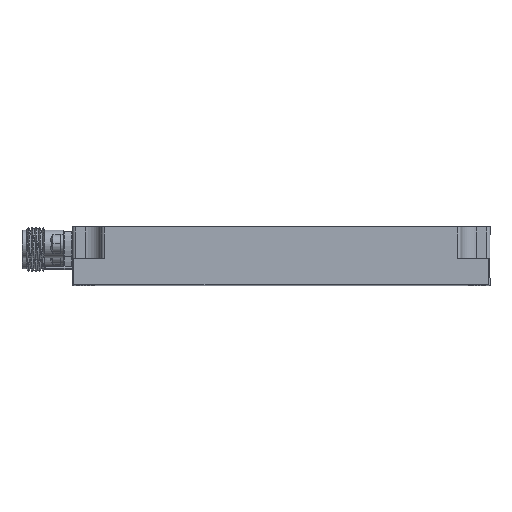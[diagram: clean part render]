
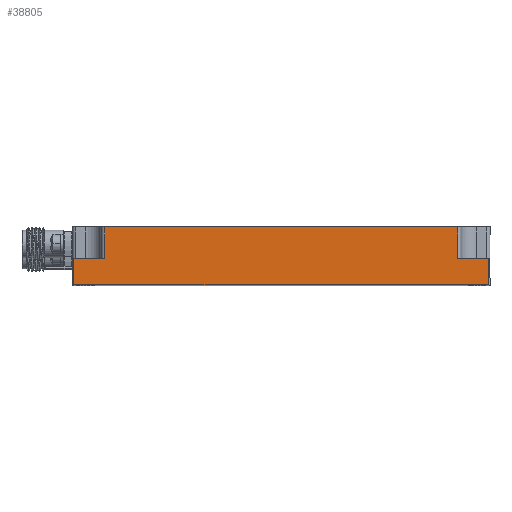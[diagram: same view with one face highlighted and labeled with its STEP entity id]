
A CAD part, top view. The second image highlights one B-rep face of the part: STEP entity #38805.
In plain terms, the highlighted planar face has unit normal (0, 0, 1).
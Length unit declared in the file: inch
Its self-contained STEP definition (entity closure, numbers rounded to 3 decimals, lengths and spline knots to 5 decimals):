
#3494 = VECTOR ( 'NONE', #135456, 39.37008 ) ;
#4113 = VERTEX_POINT ( 'NONE', #4862 ) ;
#4862 = CARTESIAN_POINT ( 'NONE',  ( 1.31358, 0.43307, 1.47638 ) ) ;
#7801 = DIRECTION ( 'NONE',  ( 1., 0., 0. ) ) ;
#9511 = CARTESIAN_POINT ( 'NONE',  ( -1.55512, 0.43307, 1.47638 ) ) ;
#9783 = EDGE_CURVE ( 'NONE', #59113, #4113, #95503, .T. ) ;
#15350 = LINE ( 'NONE', #29099, #67396 ) ;
#15458 = VERTEX_POINT ( 'NONE', #109486 ) ;
#17727 = CARTESIAN_POINT ( 'NONE',  ( -1.31358, 0.19685, 1.47638 ) ) ;
#21176 = VERTEX_POINT ( 'NONE', #104121 ) ;
#21913 = VECTOR ( 'NONE', #82249, 39.37008 ) ;
#26569 = VECTOR ( 'NONE', #55156, 39.37008 ) ;
#29099 = CARTESIAN_POINT ( 'NONE',  ( -1.55512, 0.43307, 1.47638 ) ) ;
#29797 = VECTOR ( 'NONE', #71272, 39.37008 ) ;
#30567 = VERTEX_POINT ( 'NONE', #17727 ) ;
#34235 = CARTESIAN_POINT ( 'NONE',  ( 1.55512, 0.19685, 1.47638 ) ) ;
#34534 = EDGE_CURVE ( 'NONE', #59113, #21176, #72346, .T. ) ;
#36448 = CARTESIAN_POINT ( 'NONE',  ( -1.31358, 0.19685, 1.47638 ) ) ;
#38503 = ORIENTED_EDGE ( 'NONE', *, *, #81499, .T. ) ;
#38805 = ADVANCED_FACE ( 'NONE', ( #67015 ), #55714, .F. ) ;
#39416 = CARTESIAN_POINT ( 'NONE',  ( 1.54512, 0., 1.47638 ) ) ;
#41403 = LINE ( 'NONE', #138558, #26569 ) ;
#41623 = LINE ( 'NONE', #91032, #43635 ) ;
#42219 = EDGE_CURVE ( 'NONE', #89546, #30567, #41403, .T. ) ;
#42936 = EDGE_CURVE ( 'NONE', #15458, #76474, #85257, .T. ) ;
#43635 = VECTOR ( 'NONE', #139585, 39.37008 ) ;
#46532 = LINE ( 'NONE', #58737, #21913 ) ;
#47217 = ORIENTED_EDGE ( 'NONE', *, *, #42936, .T. ) ;
#48438 = AXIS2_PLACEMENT_3D ( 'NONE', #9511, #111375, #72623 ) ;
#54920 = ORIENTED_EDGE ( 'NONE', *, *, #77827, .F. ) ;
#55156 = DIRECTION ( 'NONE',  ( 1., 0., 0. ) ) ;
#55714 = PLANE ( 'NONE',  #48438 ) ;
#58737 = CARTESIAN_POINT ( 'NONE',  ( -1.54512, 0.43307, 1.47638 ) ) ;
#59113 = VERTEX_POINT ( 'NONE', #105230 ) ;
#67015 = FACE_OUTER_BOUND ( 'NONE', #99800, .T. ) ;
#67396 = VECTOR ( 'NONE', #111073, 39.37008 ) ;
#71272 = DIRECTION ( 'NONE',  ( 0., 1., 0. ) ) ;
#72286 = CARTESIAN_POINT ( 'NONE',  ( -1.55512, 0., 1.47638 ) ) ;
#72346 = LINE ( 'NONE', #34235, #3494 ) ;
#72623 = DIRECTION ( 'NONE',  ( -1., 0., 0. ) ) ;
#76474 = VERTEX_POINT ( 'NONE', #39416 ) ;
#77827 = EDGE_CURVE ( 'NONE', #109905, #4113, #15350, .T. ) ;
#81043 = CARTESIAN_POINT ( 'NONE',  ( 1.31358, 0.19685, 1.47638 ) ) ;
#81499 = EDGE_CURVE ( 'NONE', #89546, #15458, #46532, .T. ) ;
#82249 = DIRECTION ( 'NONE',  ( 0., -1., 0. ) ) ;
#85257 = LINE ( 'NONE', #72286, #101348 ) ;
#88290 = EDGE_CURVE ( 'NONE', #30567, #109905, #158730, .T. ) ;
#89546 = VERTEX_POINT ( 'NONE', #130739 ) ;
#91032 = CARTESIAN_POINT ( 'NONE',  ( 1.54512, 0.43307, 1.47638 ) ) ;
#92243 = ORIENTED_EDGE ( 'NONE', *, *, #88290, .F. ) ;
#95503 = LINE ( 'NONE', #81043, #131510 ) ;
#96840 = ORIENTED_EDGE ( 'NONE', *, *, #9783, .T. ) ;
#99800 = EDGE_LOOP ( 'NONE', ( #102006, #38503, #47217, #151584, #139211, #96840, #54920, #92243 ) ) ;
#101348 = VECTOR ( 'NONE', #7801, 39.37008 ) ;
#102006 = ORIENTED_EDGE ( 'NONE', *, *, #42219, .F. ) ;
#104121 = CARTESIAN_POINT ( 'NONE',  ( 1.54512, 0.19685, 1.47638 ) ) ;
#105230 = CARTESIAN_POINT ( 'NONE',  ( 1.31358, 0.19685, 1.47638 ) ) ;
#109486 = CARTESIAN_POINT ( 'NONE',  ( -1.54512, 0., 1.47638 ) ) ;
#109905 = VERTEX_POINT ( 'NONE', #121459 ) ;
#111073 = DIRECTION ( 'NONE',  ( 1., 0., 0. ) ) ;
#111375 = DIRECTION ( 'NONE',  ( 0., 0., -1. ) ) ;
#121459 = CARTESIAN_POINT ( 'NONE',  ( -1.31358, 0.43307, 1.47638 ) ) ;
#130739 = CARTESIAN_POINT ( 'NONE',  ( -1.54512, 0.19685, 1.47638 ) ) ;
#131510 = VECTOR ( 'NONE', #132720, 39.37008 ) ;
#132720 = DIRECTION ( 'NONE',  ( 0., 1., 0. ) ) ;
#135456 = DIRECTION ( 'NONE',  ( 1., 0., 0. ) ) ;
#138558 = CARTESIAN_POINT ( 'NONE',  ( -1.55512, 0.19685, 1.47638 ) ) ;
#139211 = ORIENTED_EDGE ( 'NONE', *, *, #34534, .F. ) ;
#139585 = DIRECTION ( 'NONE',  ( 0., 1., 0. ) ) ;
#151584 = ORIENTED_EDGE ( 'NONE', *, *, #160050, .T. ) ;
#158730 = LINE ( 'NONE', #36448, #29797 ) ;
#160050 = EDGE_CURVE ( 'NONE', #76474, #21176, #41623, .T. ) ;
